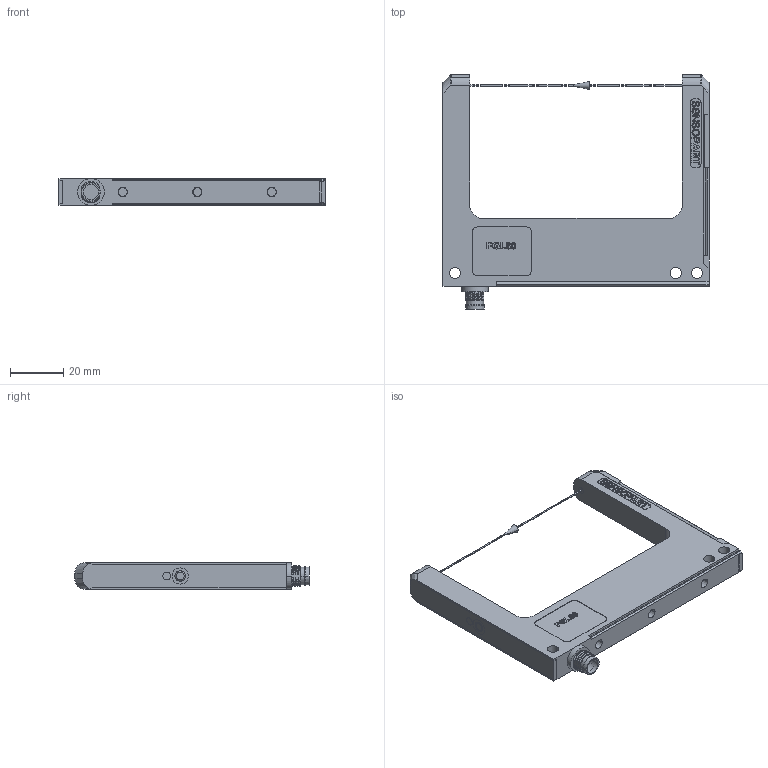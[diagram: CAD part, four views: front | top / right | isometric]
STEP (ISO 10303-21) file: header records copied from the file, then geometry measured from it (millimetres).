
FILE_DESCRIPTION((''),'2;1');
FILE_NAME('15300267_FGL80.stp','2015-11-19T11:07:55',(''),(''),'Mechanical Desktop 2009','Mechanical Desktop 2009',', , ');
FILE_SCHEMA(('CONFIG_CONTROL_DESIGN'));
Length unit declared in the file: millimetre
Products named in the file (10): DRAWING5; FGL 80; GEHAEUSE FGL_VERSION4_80ER_03; TEIL1; DECKEL_SENDER_SCHWALBENSCHWANZ_VERSION4_50ER; ~TEIL1; ~DECKEL_EMPFAENGER_VERSION4_50ER; ~~~~TEIL1; ~WEICHTEIL; OPTISCHE ACHSE_3
Assembly tree (9 placements, depth 4):
  DRAWING5
    FGL 80
      GEHAEUSE FGL_VERSION4_80ER_03
        TEIL1
      DECKEL_SENDER_SCHWALBENSCHWANZ_VERSION4_50ER
        ~TEIL1
      ~DECKEL_EMPFAENGER_VERSION4_50ER
        ~~~~TEIL1
        ~WEICHTEIL
      OPTISCHE ACHSE_3
Bounding box: 100 x 88.1 x 10 mm (x, y, z)
Volume: 34409.8 mm3; surface area: 16937 mm2
Topology: 26 solids, 26 shells, 840 faces, 2192 edges, 1454 vertices
Faces by surface type: bspline 346, plane 336, cylinder 142, cone 16
Entity records: 46955 total; most frequent: CARTESIAN_POINT 28247, ORIENTED_EDGE 4384, DIRECTION 2781, EDGE_CURVE 2192, VERTEX_POINT 1454, VECTOR 1167, LINE 1167, EDGE_LOOP 902
